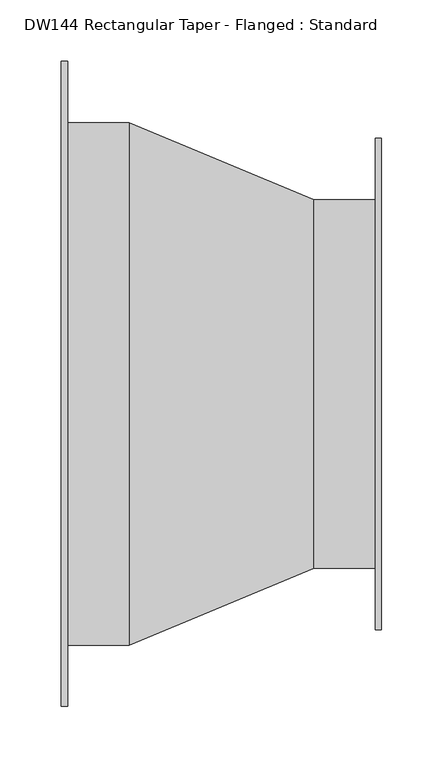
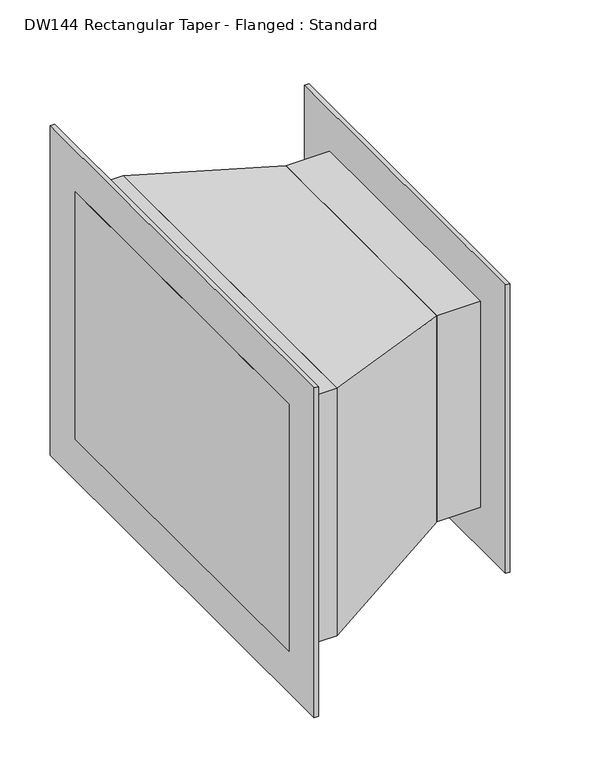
"""IFC4 building model written with IfcOpenShell, lengths in millimetres: duct fitting geometry, DW144 Rectangular Taper - Flanged : Standard."""

from ifc_helpers import new_model, si_unit, frame, origin, place, context, project, spatial, polyline, outline, extrude, faceted_brep, source, transform, mapped, element, save


def dw144_rectangular_taper_flanged_standard_5484af30(model_context):
    return source(origin(), model_context, "Body", "SolidModel", [
        extrude(outline(polyline([(260.8883476, 150.0), (260.8883476, -150.0), (205.8883476, -150.0), (205.8883476, 150.0), (260.8883476, 150.0)])), frame((0.0, 0.0, -102.5), z_axis=(0.0, 0.0, 1.0), x_axis=(1.0, 0.0, 0.0)), (0.0, 0.0, 1.0), 250.0),
        extrude(outline(polyline([(55.0, 212.5), (55.0, -212.5), (0.0, -212.5), (0.0, 212.5), (55.0, 212.5)])), frame((0.0, 0.0, -150.0), z_axis=(0.0, 0.0, 1.0), x_axis=(1.0, 0.0, 0.0)), (0.0, 0.0, 1.0), 300.0),
        faceted_brep([(205.8883476, -150.0, 147.5), (205.8883476, -150.0, -102.5), (205.8883476, 150.0, -102.5), (205.8883476, 150.0, 147.5), (55.0, -212.5, 150.0), (55.0, 212.5, 150.0), (55.0, 212.5, -150.0), (55.0, -212.5, -150.0)], [[[0, 1, 2, 3]], [[4, 5, 6, 7]], [[4, 7, 1, 0]], [[7, 6, 2, 1]], [[6, 5, 3, 2]], [[5, 4, 0, 3]]]),
        extrude(outline(polyline([(260.8883476, 200.0), (260.8883476, -200.0), (255.8883476, -200.0), (255.8883476, 200.0), (260.8883476, 200.0)])), frame((0.0, 0.0, -152.5), z_axis=(0.0, 0.0, 1.0), x_axis=(1.0, 0.0, 0.0)), (0.0, 0.0, 1.0), 350.0),
        extrude(outline(polyline([(5.0, 262.5), (5.0, -262.5), (0.0, -262.5), (0.0, 262.5), (5.0, 262.5)])), frame((0.0, 0.0, -200.0), z_axis=(0.0, 0.0, 1.0), x_axis=(1.0, 0.0, 0.0)), (0.0, 0.0, 1.0), 400.0),
    ])


if __name__ == "__main__":
    model = new_model("IFC4")
    model_context = context("Model", 3, world=origin())
    ifc_project = project(units=[si_unit("LENGTHUNIT", "METRE", prefix="MILLI")], contexts=[model_context])
    site = spatial("IfcSite", under=ifc_project)
    building = spatial("IfcBuilding", under=site)
    placement = place(None, origin())
    dw144_rectangular_taper_flanged_standard_shape = dw144_rectangular_taper_flanged_standard_5484af30(model_context)
    element("IfcDuctFitting", 1, ObjectType="DW144 Rectangular Taper - Flanged : Standard", at=placement, inside=building, context=model_context, shape_type="MappedRepresentation", body=[
        mapped(dw144_rectangular_taper_flanged_standard_shape, transform((0.0, 0.0, 0.0), x_axis=(1.0, 0.0, 0.0), y_axis=(0.0, 1.0, 0.0), z_axis=(0.0, 0.0, 1.0))),
    ])
    save(model, "model.ifc")
